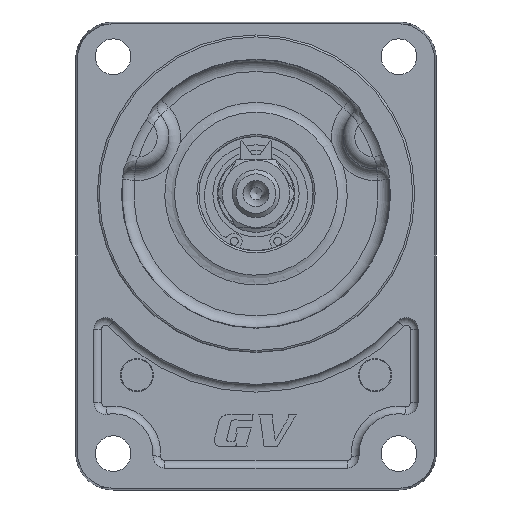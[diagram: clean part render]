
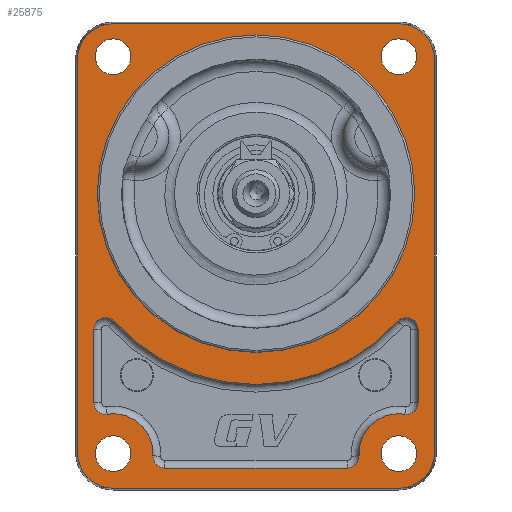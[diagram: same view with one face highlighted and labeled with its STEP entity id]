
A CAD part, front view. The second image highlights one B-rep face of the part: STEP entity #25875.
In plain terms, the highlighted planar face has unit normal (0, -1, 0).
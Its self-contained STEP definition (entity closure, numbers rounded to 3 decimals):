
#1349=LINE('',#34899,#2612);
#1353=LINE('',#34909,#2616);
#1356=LINE('',#34917,#2619);
#1359=LINE('',#34925,#2622);
#1361=LINE('',#34977,#2624);
#1362=LINE('',#34985,#2625);
#1363=LINE('',#34993,#2626);
#2612=VECTOR('',#29356,1000.);
#2616=VECTOR('',#29366,1000.);
#2619=VECTOR('',#29375,1000.);
#2622=VECTOR('',#29384,1000.);
#2624=VECTOR('',#29450,1000.);
#2625=VECTOR('',#29457,1000.);
#2626=VECTOR('',#29464,1000.);
#4276=ORIENTED_EDGE('',*,*,#10156,.T.);
#4277=ORIENTED_EDGE('',*,*,#10158,.T.);
#4278=ORIENTED_EDGE('',*,*,#10160,.T.);
#4279=ORIENTED_EDGE('',*,*,#10145,.T.);
#4280=ORIENTED_EDGE('',*,*,#10148,.T.);
#4281=ORIENTED_EDGE('',*,*,#10150,.T.);
#4282=ORIENTED_EDGE('',*,*,#10152,.T.);
#4283=ORIENTED_EDGE('',*,*,#10154,.T.);
#4284=ORIENTED_EDGE('',*,*,#10174,.T.);
#4285=ORIENTED_EDGE('',*,*,#10175,.T.);
#4286=ORIENTED_EDGE('',*,*,#10176,.T.);
#4287=ORIENTED_EDGE('',*,*,#10177,.T.);
#4288=ORIENTED_EDGE('',*,*,#10178,.T.);
#4289=ORIENTED_EDGE('',*,*,#10179,.T.);
#4290=ORIENTED_EDGE('',*,*,#10180,.T.);
#4291=ORIENTED_EDGE('',*,*,#10181,.T.);
#4292=ORIENTED_EDGE('',*,*,#10182,.T.);
#4293=ORIENTED_EDGE('',*,*,#10183,.T.);
#4294=ORIENTED_EDGE('',*,*,#10184,.T.);
#4295=ORIENTED_EDGE('',*,*,#10185,.T.);
#4296=ORIENTED_EDGE('',*,*,#10169,.T.);
#4297=ORIENTED_EDGE('',*,*,#10163,.T.);
#4298=ORIENTED_EDGE('',*,*,#10166,.T.);
#4299=ORIENTED_EDGE('',*,*,#10172,.T.);
#4300=ORIENTED_EDGE('',*,*,#10186,.F.);
#10145=EDGE_CURVE('',#13145,#13146,#1349,.F.);
#10148=EDGE_CURVE('',#13146,#13147,#15122,.T.);
#10150=EDGE_CURVE('',#13147,#13148,#1353,.F.);
#10152=EDGE_CURVE('',#13148,#13149,#15123,.T.);
#10154=EDGE_CURVE('',#13149,#13150,#1356,.F.);
#10156=EDGE_CURVE('',#13150,#13151,#15124,.T.);
#10158=EDGE_CURVE('',#13151,#13152,#1359,.F.);
#10160=EDGE_CURVE('',#13152,#13145,#15125,.T.);
#10163=EDGE_CURVE('',#13155,#13155,#15128,.F.);
#10166=EDGE_CURVE('',#13158,#13158,#15131,.F.);
#10169=EDGE_CURVE('',#13161,#13161,#15134,.F.);
#10172=EDGE_CURVE('',#13164,#13164,#15137,.F.);
#10174=EDGE_CURVE('',#13166,#13167,#15139,.F.);
#10175=EDGE_CURVE('',#13167,#13168,#15140,.F.);
#10176=EDGE_CURVE('',#13168,#13169,#15141,.F.);
#10177=EDGE_CURVE('',#13169,#13170,#1361,.T.);
#10178=EDGE_CURVE('',#13170,#13171,#15142,.F.);
#10179=EDGE_CURVE('',#13171,#13172,#15143,.F.);
#10180=EDGE_CURVE('',#13172,#13173,#15144,.F.);
#10181=EDGE_CURVE('',#13173,#13174,#1362,.T.);
#10182=EDGE_CURVE('',#13174,#13175,#15145,.F.);
#10183=EDGE_CURVE('',#13175,#13176,#15146,.F.);
#10184=EDGE_CURVE('',#13176,#13177,#15147,.F.);
#10185=EDGE_CURVE('',#13177,#13166,#1363,.T.);
#10186=EDGE_CURVE('',#13178,#13178,#15148,.T.);
#13145=VERTEX_POINT('',#34900);
#13146=VERTEX_POINT('',#34901);
#13147=VERTEX_POINT('',#34906);
#13148=VERTEX_POINT('',#34910);
#13149=VERTEX_POINT('',#34914);
#13150=VERTEX_POINT('',#34918);
#13151=VERTEX_POINT('',#34922);
#13152=VERTEX_POINT('',#34926);
#13155=VERTEX_POINT('',#34938);
#13158=VERTEX_POINT('',#34947);
#13161=VERTEX_POINT('',#34956);
#13164=VERTEX_POINT('',#34965);
#13166=VERTEX_POINT('',#34971);
#13167=VERTEX_POINT('',#34972);
#13168=VERTEX_POINT('',#34974);
#13169=VERTEX_POINT('',#34976);
#13170=VERTEX_POINT('',#34978);
#13171=VERTEX_POINT('',#34980);
#13172=VERTEX_POINT('',#34982);
#13173=VERTEX_POINT('',#34984);
#13174=VERTEX_POINT('',#34986);
#13175=VERTEX_POINT('',#34988);
#13176=VERTEX_POINT('',#34990);
#13177=VERTEX_POINT('',#34992);
#13178=VERTEX_POINT('',#34995);
#15122=CIRCLE('',#26962,9.);
#15123=CIRCLE('',#26965,9.);
#15124=CIRCLE('',#26968,9.);
#15125=CIRCLE('',#26971,9.);
#15128=CIRCLE('',#26977,4.5);
#15131=CIRCLE('',#26983,4.5);
#15134=CIRCLE('',#26989,4.5);
#15137=CIRCLE('',#26995,4.5);
#15139=CIRCLE('',#26999,2.936);
#15140=CIRCLE('',#27000,48.064);
#15141=CIRCLE('',#27001,2.936);
#15142=CIRCLE('',#27002,2.936);
#15143=CIRCLE('',#27003,10.064);
#15144=CIRCLE('',#27004,2.936);
#15145=CIRCLE('',#27005,2.936);
#15146=CIRCLE('',#27006,10.064);
#15147=CIRCLE('',#27007,2.936);
#15148=CIRCLE('',#27008,39.732);
#16353=EDGE_LOOP('',(#4276,#4277,#4278,#4279,#4280,#4281,#4282,#4283));
#16354=EDGE_LOOP('',(#4284,#4285,#4286,#4287,#4288,#4289,#4290,#4291,#4292,
#4293,#4294,#4295));
#16355=EDGE_LOOP('',(#4296));
#16356=EDGE_LOOP('',(#4297));
#16357=EDGE_LOOP('',(#4298));
#16358=EDGE_LOOP('',(#4299));
#16359=EDGE_LOOP('',(#4300));
#17600=FACE_BOUND('',#16353,.T.);
#17601=FACE_BOUND('',#16354,.T.);
#17602=FACE_BOUND('',#16355,.T.);
#17603=FACE_BOUND('',#16356,.T.);
#17604=FACE_BOUND('',#16357,.T.);
#17605=FACE_BOUND('',#16358,.T.);
#17606=FACE_BOUND('',#16359,.T.);
#18729=PLANE('',#26998);
#25875=ADVANCED_FACE('',(#17600,#17601,#17602,#17603,#17604,#17605,#17606),
#18729,.T.);
#26962=AXIS2_PLACEMENT_3D('',#34905,#29361,#29362);
#26965=AXIS2_PLACEMENT_3D('',#34913,#29370,#29371);
#26968=AXIS2_PLACEMENT_3D('',#34921,#29379,#29380);
#26971=AXIS2_PLACEMENT_3D('',#34929,#29388,#29389);
#26977=AXIS2_PLACEMENT_3D('',#34937,#29400,#29401);
#26983=AXIS2_PLACEMENT_3D('',#34946,#29412,#29413);
#26989=AXIS2_PLACEMENT_3D('',#34955,#29424,#29425);
#26995=AXIS2_PLACEMENT_3D('',#34964,#29436,#29437);
#26998=AXIS2_PLACEMENT_3D('',#34969,#29442,#29443);
#26999=AXIS2_PLACEMENT_3D('',#34970,#29444,#29445);
#27000=AXIS2_PLACEMENT_3D('',#34973,#29446,#29447);
#27001=AXIS2_PLACEMENT_3D('',#34975,#29448,#29449);
#27002=AXIS2_PLACEMENT_3D('',#34979,#29451,#29452);
#27003=AXIS2_PLACEMENT_3D('',#34981,#29453,#29454);
#27004=AXIS2_PLACEMENT_3D('',#34983,#29455,#29456);
#27005=AXIS2_PLACEMENT_3D('',#34987,#29458,#29459);
#27006=AXIS2_PLACEMENT_3D('',#34989,#29460,#29461);
#27007=AXIS2_PLACEMENT_3D('',#34991,#29462,#29463);
#27008=AXIS2_PLACEMENT_3D('',#34994,#29465,#29466);
#29356=DIRECTION('',(0.,0.,1.));
#29361=DIRECTION('',(0.,-1.,0.));
#29362=DIRECTION('',(0.,0.,1.));
#29366=DIRECTION('',(-1.,0.,0.));
#29370=DIRECTION('',(0.,-1.,0.));
#29371=DIRECTION('',(0.,0.,1.));
#29375=DIRECTION('',(0.,0.,-1.));
#29379=DIRECTION('',(0.,-1.,0.));
#29380=DIRECTION('',(0.,0.,1.));
#29384=DIRECTION('',(1.,0.,0.));
#29388=DIRECTION('',(0.,-1.,0.));
#29389=DIRECTION('',(0.,0.,1.));
#29400=DIRECTION('',(0.,-1.,0.));
#29401=DIRECTION('',(0.,0.,1.));
#29412=DIRECTION('',(0.,-1.,0.));
#29413=DIRECTION('',(0.,0.,1.));
#29424=DIRECTION('',(0.,-1.,0.));
#29425=DIRECTION('',(0.,0.,1.));
#29436=DIRECTION('',(0.,-1.,0.));
#29437=DIRECTION('',(0.,0.,1.));
#29442=DIRECTION('',(0.,-1.,0.));
#29443=DIRECTION('',(0.,0.,1.));
#29444=DIRECTION('',(0.,-1.,0.));
#29445=DIRECTION('',(0.,0.,1.));
#29446=DIRECTION('',(0.,1.,0.));
#29447=DIRECTION('',(0.,0.,-1.));
#29448=DIRECTION('',(0.,-1.,0.));
#29449=DIRECTION('',(0.,0.,1.));
#29450=DIRECTION('',(0.,0.,-1.));
#29451=DIRECTION('',(0.,-1.,0.));
#29452=DIRECTION('',(0.,0.,1.));
#29453=DIRECTION('',(0.,1.,0.));
#29454=DIRECTION('',(0.,0.,-1.));
#29455=DIRECTION('',(0.,-1.,0.));
#29456=DIRECTION('',(0.,0.,1.));
#29457=DIRECTION('',(-1.,0.,0.));
#29458=DIRECTION('',(0.,-1.,0.));
#29459=DIRECTION('',(0.,0.,1.));
#29460=DIRECTION('',(0.,1.,0.));
#29461=DIRECTION('',(0.,0.,-1.));
#29462=DIRECTION('',(0.,-1.,0.));
#29463=DIRECTION('',(0.,0.,1.));
#29464=DIRECTION('',(0.,0.,1.));
#29465=DIRECTION('',(0.,-1.,0.));
#29466=DIRECTION('',(0.,0.,1.));
#34899=CARTESIAN_POINT('',(-45.,-20.7,0.));
#34900=CARTESIAN_POINT('',(-45.,-20.7,49.5));
#34901=CARTESIAN_POINT('',(-45.,-20.7,-49.5));
#34905=CARTESIAN_POINT('',(-36.,-20.7,-49.5));
#34906=CARTESIAN_POINT('',(-36.,-20.7,-58.5));
#34909=CARTESIAN_POINT('',(0.,-20.7,-58.5));
#34910=CARTESIAN_POINT('',(36.,-20.7,-58.5));
#34913=CARTESIAN_POINT('',(36.,-20.7,-49.5));
#34914=CARTESIAN_POINT('',(45.,-20.7,-49.5));
#34917=CARTESIAN_POINT('',(45.,-20.7,0.));
#34918=CARTESIAN_POINT('',(45.,-20.7,49.5));
#34921=CARTESIAN_POINT('',(36.,-20.7,49.5));
#34922=CARTESIAN_POINT('',(36.,-20.7,58.5));
#34925=CARTESIAN_POINT('',(0.,-20.7,58.5));
#34926=CARTESIAN_POINT('',(-36.,-20.7,58.5));
#34929=CARTESIAN_POINT('',(-36.,-20.7,49.5));
#34937=CARTESIAN_POINT('',(36.,-20.7,-49.8));
#34938=CARTESIAN_POINT('',(36.,-20.7,-45.3));
#34946=CARTESIAN_POINT('',(-36.,-20.7,-49.8));
#34947=CARTESIAN_POINT('',(-36.,-20.7,-45.3));
#34955=CARTESIAN_POINT('',(-36.,-20.7,50.2));
#34956=CARTESIAN_POINT('',(-36.,-20.7,54.7));
#34964=CARTESIAN_POINT('',(36.,-20.7,50.2));
#34965=CARTESIAN_POINT('',(36.,-20.7,54.7));
#34969=CARTESIAN_POINT('',(0.,-20.7,108.497));
#34970=CARTESIAN_POINT('',(-37.9,-20.7,-18.426));
#34971=CARTESIAN_POINT('',(-40.836,-20.7,-18.426));
#34972=CARTESIAN_POINT('',(-35.718,-20.7,-16.461));
#34973=CARTESIAN_POINT('',(0.,-20.7,15.7));
#34974=CARTESIAN_POINT('',(35.718,-20.7,-16.461));
#34975=CARTESIAN_POINT('',(37.9,-20.7,-18.426));
#34976=CARTESIAN_POINT('',(40.836,-20.7,-18.426));
#34977=CARTESIAN_POINT('',(40.836,-20.7,-36.94));
#34978=CARTESIAN_POINT('',(40.836,-20.7,-36.94));
#34979=CARTESIAN_POINT('',(37.9,-20.7,-36.94));
#34980=CARTESIAN_POINT('',(37.471,-20.7,-39.845));
#34981=CARTESIAN_POINT('',(36.,-20.7,-49.8));
#34982=CARTESIAN_POINT('',(25.951,-20.7,-50.342));
#34983=CARTESIAN_POINT('',(23.019,-20.7,-50.5));
#34984=CARTESIAN_POINT('',(23.019,-20.7,-53.436));
#34985=CARTESIAN_POINT('',(-23.019,-20.7,-53.436));
#34986=CARTESIAN_POINT('',(-23.019,-20.7,-53.436));
#34987=CARTESIAN_POINT('',(-23.019,-20.7,-50.5));
#34988=CARTESIAN_POINT('',(-25.951,-20.7,-50.342));
#34989=CARTESIAN_POINT('',(-36.,-20.7,-49.8));
#34990=CARTESIAN_POINT('',(-37.471,-20.7,-39.845));
#34991=CARTESIAN_POINT('',(-37.9,-20.7,-36.94));
#34992=CARTESIAN_POINT('',(-40.836,-20.7,-36.94));
#34993=CARTESIAN_POINT('',(-40.836,-20.7,-36.94));
#34994=CARTESIAN_POINT('',(0.,-20.7,15.7));
#34995=CARTESIAN_POINT('',(0.,-20.7,55.432));
